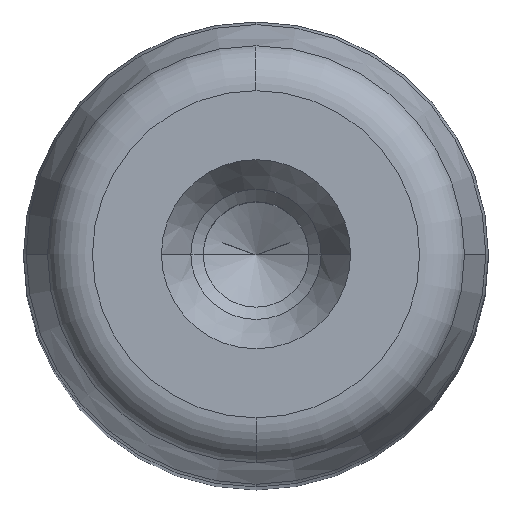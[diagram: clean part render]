
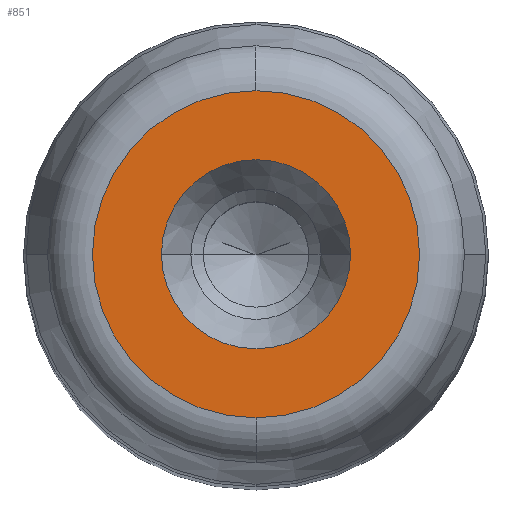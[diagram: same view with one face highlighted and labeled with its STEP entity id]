
A CAD part, top view. The second image highlights one B-rep face of the part: STEP entity #851.
In plain terms, the highlighted planar face has unit normal (0, 0, 1) as drawn and (0, 1, 0) by its records, which use the part's own axes.
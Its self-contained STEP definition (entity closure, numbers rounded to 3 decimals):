
#281=CARTESIAN_POINT('',(6.1,125.0,0.0));
#282=VERTEX_POINT('',#281);
#289=CARTESIAN_POINT('',(-6.1,125.0,0.));
#290=VERTEX_POINT('',#289);
#291=CARTESIAN_POINT('',(0.0,125.0,0.0));
#292=DIRECTION('',(0.0,1.0,0.0));
#293=DIRECTION('',(1.0,0.0,0.0));
#294=AXIS2_PLACEMENT_3D('',#291,#292,#293);
#295=CIRCLE('',#294,6.1);
#296=EDGE_CURVE('',#282,#290,#295,.T.);
#313=CARTESIAN_POINT('',(0.0,125.0,10.554));
#314=VERTEX_POINT('',#313);
#324=CARTESIAN_POINT('',(0.,125.0,-10.554));
#325=VERTEX_POINT('',#324);
#326=CARTESIAN_POINT('',(0.0,125.0,0.0));
#327=DIRECTION('',(0.0,1.0,0.0));
#328=DIRECTION('',(1.0,0.0,0.0));
#329=AXIS2_PLACEMENT_3D('',#326,#327,#328);
#330=CIRCLE('',#329,10.554);
#331=EDGE_CURVE('',#325,#314,#330,.T.);
#812=CARTESIAN_POINT('',(10.554,125.0,0.0));
#813=VERTEX_POINT('',#812);
#814=CARTESIAN_POINT('',(0.0,125.0,0.0));
#815=DIRECTION('',(0.0,1.0,0.0));
#816=DIRECTION('',(1.0,0.0,0.0));
#817=AXIS2_PLACEMENT_3D('',#814,#815,#816);
#818=CIRCLE('',#817,10.554);
#819=EDGE_CURVE('',#813,#325,#818,.T.);
#821=CARTESIAN_POINT('',(0.0,125.0,0.0));
#822=DIRECTION('',(0.0,1.0,0.0));
#823=DIRECTION('',(1.0,0.0,0.0));
#824=AXIS2_PLACEMENT_3D('',#821,#822,#823);
#825=CIRCLE('',#824,10.554);
#826=EDGE_CURVE('',#314,#813,#825,.T.);
#831=CARTESIAN_POINT('',(-11.61,125.0,-11.61));
#832=DIRECTION('',(0.0,1.0,0.0));
#833=DIRECTION('',(0.0,0.0,1.0));
#834=AXIS2_PLACEMENT_3D('',#831,#832,#833);
#835=PLANE('',#834);
#836=ORIENTED_EDGE('',*,*,#819,.T.);
#837=ORIENTED_EDGE('',*,*,#331,.T.);
#838=ORIENTED_EDGE('',*,*,#826,.T.);
#839=EDGE_LOOP('',(#836,#837,#838));
#840=FACE_OUTER_BOUND('',#839,.T.);
#841=ORIENTED_EDGE('',*,*,#296,.F.);
#842=CARTESIAN_POINT('',(0.0,125.0,0.0));
#843=DIRECTION('',(0.0,1.0,0.0));
#844=DIRECTION('',(1.0,0.0,0.0));
#845=AXIS2_PLACEMENT_3D('',#842,#843,#844);
#846=CIRCLE('',#845,6.1);
#847=EDGE_CURVE('',#290,#282,#846,.T.);
#848=ORIENTED_EDGE('',*,*,#847,.F.);
#849=EDGE_LOOP('',(#841,#848));
#850=FACE_BOUND('',#849,.T.);
#851=ADVANCED_FACE('',(#840,#850),#835,.T.);
